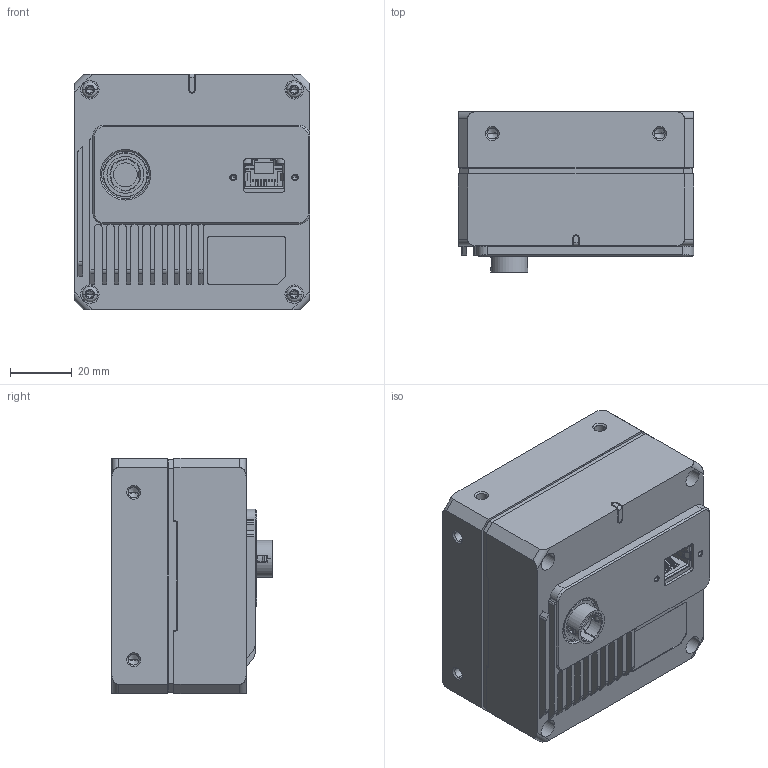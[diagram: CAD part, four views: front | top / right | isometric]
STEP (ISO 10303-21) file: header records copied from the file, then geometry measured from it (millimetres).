
FILE_DESCRIPTION((''),'2;1');
FILE_NAME('MV-CL0823-92GMC','2023-07-28T16:22:07',('sunli10'),(''),'CREO PARAMETRIC BY PTC INC, 2020044','CREO PARAMETRIC BY PTC INC, 2020044','');
FILE_SCHEMA(('CONFIG_CONTROL_DESIGN'));
Products named in the file (1): MV-CL0823-92GMC
Bounding box: 76 x 51.69 x 76 mm (x, y, z)
Volume: 226663.4 mm3; surface area: 41360.6 mm2
Topology: 2 solids, 18 shells, 2315 faces, 6402 edges, 4112 vertices
Faces by surface type: plane 1342, cylinder 715, cone 152, bspline 54, torus 24, extrusion 24, sphere 4
Entity records: 80179 total; most frequent: CARTESIAN_POINT 21244, ORIENTED_EDGE 12672, DIRECTION 11794, EDGE_CURVE 6336, VECTOR 4340, LINE 4316, VERTEX_POINT 4112, AXIS2_PLACEMENT_3D 3727
